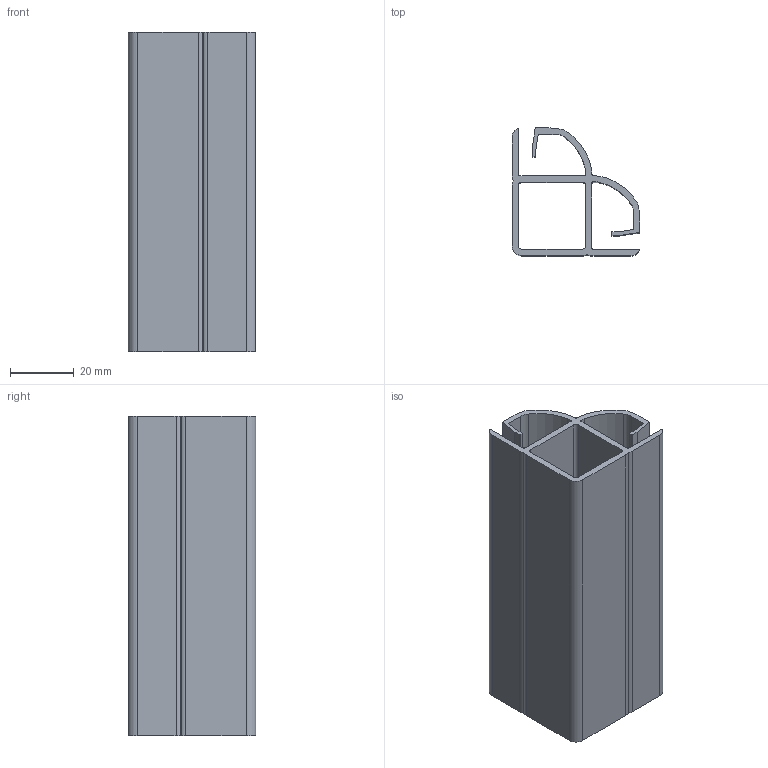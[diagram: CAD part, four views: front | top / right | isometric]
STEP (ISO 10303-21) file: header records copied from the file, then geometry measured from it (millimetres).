
FILE_DESCRIPTION (( 'STEP AP203' ), '1' );
FILE_NAME ('013.025.009.STEP', '2020-07-22T09:06:18', ( '' ), ( '' ), 'SwSTEP 2.0', 'SolidWorks 2018', '' );
FILE_SCHEMA (( 'CONFIG_CONTROL_DESIGN' ));
Length unit declared in the file: millimetre
Products named in the file (1): 013.025.009
Bounding box: 40 x 40 x 100 mm (x, y, z)
Volume: 35120.7 mm3; surface area: 37417.9 mm2
Topology: 1 solids, 1 shells, 64 faces, 186 edges, 124 vertices
Faces by surface type: plane 32, cylinder 28, bspline 4
Entity records: 2231 total; most frequent: CARTESIAN_POINT 427, ORIENTED_EDGE 372, DIRECTION 356, EDGE_CURVE 186, VERTEX_POINT 124, VECTOR 122, LINE 122, AXIS2_PLACEMENT_3D 117
